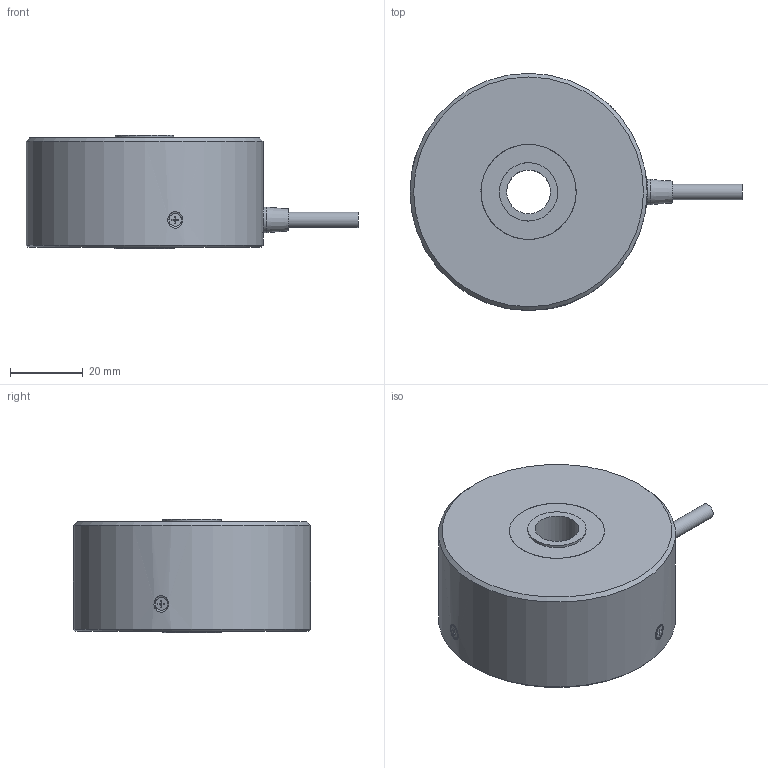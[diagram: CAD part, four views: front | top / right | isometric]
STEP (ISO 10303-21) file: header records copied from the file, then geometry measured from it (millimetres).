
FILE_DESCRIPTION(('STEP AP242'),'1');
FILE_NAME('.stp','2022-06-21T09:51:59',(' '),(' '),'Spatial InterOp 3D',' ',' ');
FILE_SCHEMA(('AP242_MANAGED_MODEL_BASED_3D_ENGINEERING_MIM_LF {1 0 10303 442 1 1 4}'));
Length unit declared in the file: millimetre
Products named in the file (8): L5G03D MEH-50-＊＊＊P□; ベアリングナット ME50D65; ｼｰﾙ 16X26(6001HRS); 018241 サラ0番3種 M2x4 鉄 三価黒; 5芯ケーブル(4.2) L=70; ケーブル; ブッシュ
Assembly tree (9 placements, depth 3):
  L5G03D MEH-50-＊＊＊P□
    ベアリングナット ME50D65
    L5G03D MEH-50-＊＊＊P□
    ｼｰﾙ 16X26(6001HRS)
    018241 サラ0番3種 M2x4 鉄 三価黒  x3
    5芯ケーブル(4.2) L=70
      ケーブル
      ブッシュ
Bounding box: 91 x 65 x 31.1 mm (x, y, z)
Volume: 96103.2 mm3; surface area: 17934.6 mm2
Topology: 8 solids, 13 shells, 157 faces, 343 edges, 225 vertices
Faces by surface type: plane 83, cylinder 57, cone 17
Full cylindrical faces by diameter (mm): 1.5 x2, 1.6 x7, 2 x6, 2.3 x3, 3.3 x6, 3.5 x3, 4.2 x2, 7 x1, 12 x1, 15 x1, 16 x3, 17 x1, 19 x1, 20 x1, 26.1 x2, 27 x1, 28 x1, 65 x1
Entity records: 4798 total; most frequent: CARTESIAN_POINT 1174, DIRECTION 481, ORIENTED_EDGE 348, AXIS2_PLACEMENT_3D 201, EDGE_LOOP 191, EDGE_CURVE 174, FACE_OUTER_BOUND 156, VERTEX_POINT 148
